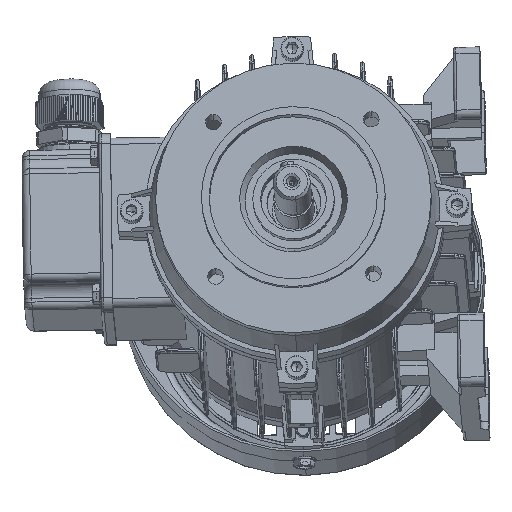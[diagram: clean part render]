
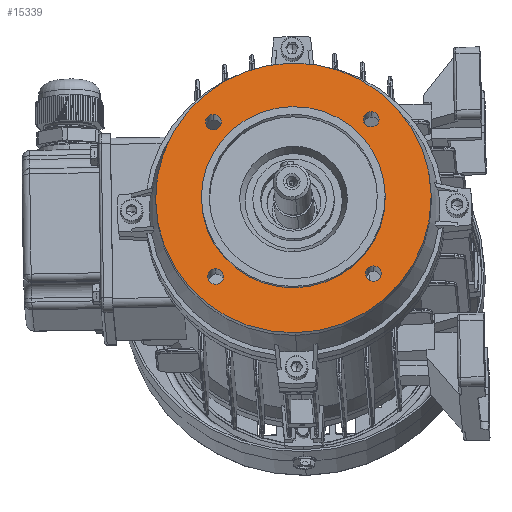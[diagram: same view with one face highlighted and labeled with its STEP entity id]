
A CAD part, left-side view. The second image highlights one B-rep face of the part: STEP entity #15339.
In plain terms, the highlighted planar face has unit normal (-0.978, 0.021, 0.207) as drawn and (-1, 0, 0) by its records, which use the part's own axes.
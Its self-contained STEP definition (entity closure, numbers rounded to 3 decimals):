
#226 = VERTEX_POINT ( 'NONE', #38811 ) ;
#791 = CARTESIAN_POINT ( 'NONE',  ( -12., 0., 35. ) ) ;
#828 = EDGE_LOOP ( 'NONE', ( #11553, #77559 ) ) ;
#1219 = VERTEX_POINT ( 'NONE', #54548 ) ;
#2553 = ORIENTED_EDGE ( 'NONE', *, *, #11817, .F. ) ;
#2978 = EDGE_LOOP ( 'NONE', ( #67694, #22608 ) ) ;
#3665 = CARTESIAN_POINT ( 'NONE',  ( -12., 30.052, 30.052 ) ) ;
#4147 = ORIENTED_EDGE ( 'NONE', *, *, #55639, .F. ) ;
#4240 = EDGE_LOOP ( 'NONE', ( #84898, #51155 ) ) ;
#6835 = CARTESIAN_POINT ( 'NONE',  ( -12., 0., 0. ) ) ;
#11476 = EDGE_CURVE ( 'NONE', #98744, #72745, #77854, .T. ) ;
#11553 = ORIENTED_EDGE ( 'NONE', *, *, #34990, .F. ) ;
#11817 = EDGE_CURVE ( 'NONE', #226, #73675, #14475, .T. ) ;
#13849 = FACE_BOUND ( 'NONE', #828, .T. ) ;
#14027 = VERTEX_POINT ( 'NONE', #791 ) ;
#14475 = CIRCLE ( 'NONE', #74768, 3. ) ;
#15339 = ADVANCED_FACE ( 'NONE', ( #100632, #58461, #37432, #13849, #54680, #90575 ), #40164, .F. ) ;
#15873 = EDGE_CURVE ( 'NONE', #32763, #25298, #59562, .T. ) ;
#16114 = ORIENTED_EDGE ( 'NONE', *, *, #15873, .F. ) ;
#17805 = CIRCLE ( 'NONE', #102671, 3. ) ;
#20372 = DIRECTION ( 'NONE',  ( 0., 0., 1. ) ) ;
#20724 = CIRCLE ( 'NONE', #96216, 35. ) ;
#21460 = DIRECTION ( 'NONE',  ( 0., 0., 1. ) ) ;
#22137 = DIRECTION ( 'NONE',  ( -1., 0., 0. ) ) ;
#22608 = ORIENTED_EDGE ( 'NONE', *, *, #88582, .F. ) ;
#25298 = VERTEX_POINT ( 'NONE', #74960 ) ;
#25345 = CIRCLE ( 'NONE', #75274, 52.5 ) ;
#27072 = CARTESIAN_POINT ( 'NONE',  ( -12., 0., -52.5 ) ) ;
#31295 = DIRECTION ( 'NONE',  ( 0., 0., 1. ) ) ;
#31477 = CARTESIAN_POINT ( 'NONE',  ( -12., 30.052, -27.052 ) ) ;
#32254 = VERTEX_POINT ( 'NONE', #94109 ) ;
#32349 = ORIENTED_EDGE ( 'NONE', *, *, #45482, .F. ) ;
#32592 = EDGE_CURVE ( 'NONE', #25298, #32763, #17805, .T. ) ;
#32763 = VERTEX_POINT ( 'NONE', #93285 ) ;
#33387 = DIRECTION ( 'NONE',  ( 0., 0., 1. ) ) ;
#33564 = AXIS2_PLACEMENT_3D ( 'NONE', #79187, #71215, #38307 ) ;
#34036 = VERTEX_POINT ( 'NONE', #31477 ) ;
#34322 = AXIS2_PLACEMENT_3D ( 'NONE', #3665, #36561, #99251 ) ;
#34990 = EDGE_CURVE ( 'NONE', #36711, #32254, #81653, .T. ) ;
#36561 = DIRECTION ( 'NONE',  ( -1., 0., 0. ) ) ;
#36711 = VERTEX_POINT ( 'NONE', #69754 ) ;
#37432 = FACE_BOUND ( 'NONE', #2978, .T. ) ;
#38307 = DIRECTION ( 'NONE',  ( 0., 0., 1. ) ) ;
#38811 = CARTESIAN_POINT ( 'NONE',  ( -12., -30.052, 33.052 ) ) ;
#40164 = PLANE ( 'NONE',  #79591 ) ;
#40480 = AXIS2_PLACEMENT_3D ( 'NONE', #60170, #42867, #20372 ) ;
#40925 = DIRECTION ( 'NONE',  ( -1., 0., 0. ) ) ;
#41318 = DIRECTION ( 'NONE',  ( -1., 0., 0. ) ) ;
#41503 = AXIS2_PLACEMENT_3D ( 'NONE', #73634, #42097, #97518 ) ;
#42083 = CARTESIAN_POINT ( 'NONE',  ( -12., -30.052, -30.052 ) ) ;
#42097 = DIRECTION ( 'NONE',  ( -1., 0., 0. ) ) ;
#42867 = DIRECTION ( 'NONE',  ( -1., 0., 0. ) ) ;
#43144 = EDGE_LOOP ( 'NONE', ( #2553, #32349 ) ) ;
#44317 = AXIS2_PLACEMENT_3D ( 'NONE', #56871, #40925, #96348 ) ;
#44726 = CIRCLE ( 'NONE', #33564, 3. ) ;
#45482 = EDGE_CURVE ( 'NONE', #73675, #226, #77053, .T. ) ;
#47784 = CARTESIAN_POINT ( 'NONE',  ( -12., 0., 0. ) ) ;
#47817 = CARTESIAN_POINT ( 'NONE',  ( -12., 0., 52.5 ) ) ;
#48450 = CARTESIAN_POINT ( 'NONE',  ( -12., 35., 0. ) ) ;
#51155 = ORIENTED_EDGE ( 'NONE', *, *, #11476, .T. ) ;
#51358 = CIRCLE ( 'NONE', #82791, 35. ) ;
#52777 = CARTESIAN_POINT ( 'NONE',  ( -12., 0., -35. ) ) ;
#54548 = CARTESIAN_POINT ( 'NONE',  ( -12., 30.052, -33.052 ) ) ;
#54680 = FACE_BOUND ( 'NONE', #75633, .T. ) ;
#55377 = DIRECTION ( 'NONE',  ( -1., 0., 0. ) ) ;
#55639 = EDGE_CURVE ( 'NONE', #14027, #90826, #51358, .T. ) ;
#55809 = AXIS2_PLACEMENT_3D ( 'NONE', #95426, #55940, #56641 ) ;
#55940 = DIRECTION ( 'NONE',  ( -1., 0., 0. ) ) ;
#56641 = DIRECTION ( 'NONE',  ( 0., 0., 1. ) ) ;
#56871 = CARTESIAN_POINT ( 'NONE',  ( -12., 30.052, -30.052 ) ) ;
#56979 = AXIS2_PLACEMENT_3D ( 'NONE', #74351, #55377, #95217 ) ;
#58461 = FACE_BOUND ( 'NONE', #75042, .T. ) ;
#59562 = CIRCLE ( 'NONE', #56979, 3. ) ;
#59587 = CARTESIAN_POINT ( 'NONE',  ( -12., -30.052, 27.052 ) ) ;
#60170 = CARTESIAN_POINT ( 'NONE',  ( -12., 30.052, 30.052 ) ) ;
#66692 = DIRECTION ( 'NONE',  ( 0., 0., 1. ) ) ;
#67047 = CIRCLE ( 'NONE', #44317, 3. ) ;
#67694 = ORIENTED_EDGE ( 'NONE', *, *, #70081, .F. ) ;
#69754 = CARTESIAN_POINT ( 'NONE',  ( -12., 30.052, 33.052 ) ) ;
#70081 = EDGE_CURVE ( 'NONE', #34036, #1219, #67047, .T. ) ;
#70723 = DIRECTION ( 'NONE',  ( 0., 0., 1. ) ) ;
#71215 = DIRECTION ( 'NONE',  ( -1., 0., 0. ) ) ;
#71374 = DIRECTION ( 'NONE',  ( 0., 0., -1. ) ) ;
#71724 = DIRECTION ( 'NONE',  ( 1., 0., 0. ) ) ;
#72077 = DIRECTION ( 'NONE',  ( -1., 0., 0. ) ) ;
#72149 = CARTESIAN_POINT ( 'NONE',  ( -12., -30.052, 30.052 ) ) ;
#72745 = VERTEX_POINT ( 'NONE', #47817 ) ;
#73634 = CARTESIAN_POINT ( 'NONE',  ( -12., 0., 0. ) ) ;
#73675 = VERTEX_POINT ( 'NONE', #59587 ) ;
#74351 = CARTESIAN_POINT ( 'NONE',  ( -12., -30.052, -30.052 ) ) ;
#74768 = AXIS2_PLACEMENT_3D ( 'NONE', #72149, #78778, #31295 ) ;
#74960 = CARTESIAN_POINT ( 'NONE',  ( -12., -30.052, -33.052 ) ) ;
#75042 = EDGE_LOOP ( 'NONE', ( #16114, #86144 ) ) ;
#75274 = AXIS2_PLACEMENT_3D ( 'NONE', #80816, #41318, #33387 ) ;
#75633 = EDGE_LOOP ( 'NONE', ( #4147, #92860 ) ) ;
#77053 = CIRCLE ( 'NONE', #55809, 3. ) ;
#77559 = ORIENTED_EDGE ( 'NONE', *, *, #78765, .F. ) ;
#77854 = CIRCLE ( 'NONE', #41503, 52.5 ) ;
#78499 = CIRCLE ( 'NONE', #34322, 3. ) ;
#78765 = EDGE_CURVE ( 'NONE', #32254, #36711, #78499, .T. ) ;
#78778 = DIRECTION ( 'NONE',  ( -1., 0., 0. ) ) ;
#79187 = CARTESIAN_POINT ( 'NONE',  ( -12., 30.052, -30.052 ) ) ;
#79591 = AXIS2_PLACEMENT_3D ( 'NONE', #48450, #71724, #71374 ) ;
#80816 = CARTESIAN_POINT ( 'NONE',  ( -12., 0., 0. ) ) ;
#81653 = CIRCLE ( 'NONE', #40480, 3. ) ;
#81910 = DIRECTION ( 'NONE',  ( -1., 0., 0. ) ) ;
#82791 = AXIS2_PLACEMENT_3D ( 'NONE', #47784, #72077, #70723 ) ;
#84898 = ORIENTED_EDGE ( 'NONE', *, *, #95135, .T. ) ;
#86144 = ORIENTED_EDGE ( 'NONE', *, *, #32592, .F. ) ;
#88582 = EDGE_CURVE ( 'NONE', #1219, #34036, #44726, .T. ) ;
#90575 = FACE_OUTER_BOUND ( 'NONE', #4240, .T. ) ;
#90826 = VERTEX_POINT ( 'NONE', #52777 ) ;
#92530 = EDGE_CURVE ( 'NONE', #90826, #14027, #20724, .T. ) ;
#92860 = ORIENTED_EDGE ( 'NONE', *, *, #92530, .F. ) ;
#93285 = CARTESIAN_POINT ( 'NONE',  ( -12., -30.052, -27.052 ) ) ;
#94109 = CARTESIAN_POINT ( 'NONE',  ( -12., 30.052, 27.052 ) ) ;
#95135 = EDGE_CURVE ( 'NONE', #72745, #98744, #25345, .T. ) ;
#95217 = DIRECTION ( 'NONE',  ( 0., 0., 1. ) ) ;
#95426 = CARTESIAN_POINT ( 'NONE',  ( -12., -30.052, 30.052 ) ) ;
#96216 = AXIS2_PLACEMENT_3D ( 'NONE', #6835, #22137, #21460 ) ;
#96348 = DIRECTION ( 'NONE',  ( 0., 0., 1. ) ) ;
#97518 = DIRECTION ( 'NONE',  ( 0., 0., 1. ) ) ;
#98744 = VERTEX_POINT ( 'NONE', #27072 ) ;
#99251 = DIRECTION ( 'NONE',  ( 0., 0., 1. ) ) ;
#100632 = FACE_BOUND ( 'NONE', #43144, .T. ) ;
#102671 = AXIS2_PLACEMENT_3D ( 'NONE', #42083, #81910, #66692 ) ;
